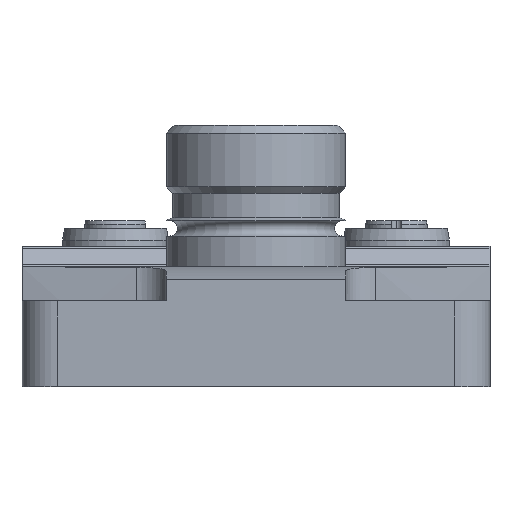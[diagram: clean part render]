
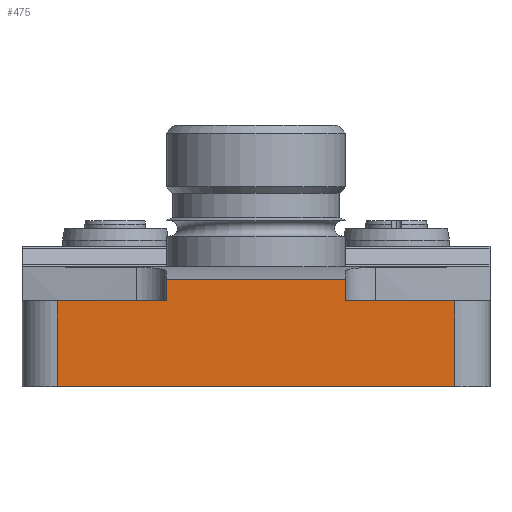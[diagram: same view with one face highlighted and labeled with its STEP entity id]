
A CAD part, front view. The second image highlights one B-rep face of the part: STEP entity #475.
In plain terms, the highlighted planar face has unit normal (0, -1, 0).
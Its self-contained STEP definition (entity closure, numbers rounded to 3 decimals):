
#475 = ADVANCED_FACE( '', ( #1530 ), #1531, .F. );
#1530 = FACE_OUTER_BOUND( '', #2829, .T. );
#1531 = PLANE( '', #2830 );
#2829 = EDGE_LOOP( '', ( #6610, #6611, #6612, #6613, #6614, #6615, #6616, #6617 ) );
#2830 = AXIS2_PLACEMENT_3D( '', #6618, #6619, #6620 );
#6610 = ORIENTED_EDGE( '', *, *, #8782, .T. );
#6611 = ORIENTED_EDGE( '', *, *, #8777, .F. );
#6612 = ORIENTED_EDGE( '', *, *, #8837, .T. );
#6613 = ORIENTED_EDGE( '', *, *, #8841, .T. );
#6614 = ORIENTED_EDGE( '', *, *, #8838, .F. );
#6615 = ORIENTED_EDGE( '', *, *, #7765, .F. );
#6616 = ORIENTED_EDGE( '', *, *, #7768, .F. );
#6617 = ORIENTED_EDGE( '', *, *, #7748, .T. );
#6618 = CARTESIAN_POINT( '', ( -25.5, 0., 8. ) );
#6619 = DIRECTION( '', ( 0., 1., 0. ) );
#6620 = DIRECTION( '', ( 0., 0., 1. ) );
#7748 = EDGE_CURVE( '', #9210, #9208, #9211, .T. );
#7765 = EDGE_CURVE( '', #9241, #9232, #9243, .T. );
#7768 = EDGE_CURVE( '', #9210, #9241, #9246, .T. );
#8777 = EDGE_CURVE( '', #10952, #10954, #10955, .T. );
#8782 = EDGE_CURVE( '', #9208, #10954, #10961, .T. );
#8837 = EDGE_CURVE( '', #10952, #11041, #11043, .T. );
#8838 = EDGE_CURVE( '', #9232, #11044, #11045, .T. );
#8841 = EDGE_CURVE( '', #11041, #11044, #11049, .T. );
#9208 = VERTEX_POINT( '', #11667 );
#9210 = VERTEX_POINT( '', #11669 );
#9211 = LINE( '', #11670, #11671 );
#9232 = VERTEX_POINT( '', #11716 );
#9241 = VERTEX_POINT( '', #11726 );
#9243 = LINE( '', #11729, #11730 );
#9246 = LINE( '', #11735, #11736 );
#10952 = VERTEX_POINT( '', #14522 );
#10954 = VERTEX_POINT( '', #14524 );
#10955 = LINE( '', #14525, #14526 );
#10961 = LINE( '', #14535, #14536 );
#11041 = VERTEX_POINT( '', #14658 );
#11043 = LINE( '', #14660, #14661 );
#11044 = VERTEX_POINT( '', #14662 );
#11045 = LINE( '', #14663, #14664 );
#11049 = LINE( '', #14669, #14670 );
#11667 = CARTESIAN_POINT( '', ( -11.5, 0., 3.76 ) );
#11669 = CARTESIAN_POINT( '', ( 11.5, 0., 3.76 ) );
#11670 = CARTESIAN_POINT( '', ( 30., 0., 3.76 ) );
#11671 = VECTOR( '', #15155, 1000. );
#11716 = CARTESIAN_POINT( '', ( 25.5, 0., 1. ) );
#11726 = CARTESIAN_POINT( '', ( 11.5, 0., 1. ) );
#11729 = CARTESIAN_POINT( '', ( 11.5, 0., 1. ) );
#11730 = VECTOR( '', #15186, 1000. );
#11735 = CARTESIAN_POINT( '', ( 11.5, 0., 15. ) );
#11736 = VECTOR( '', #15189, 1000. );
#14522 = CARTESIAN_POINT( '', ( -25.5, 0., 1. ) );
#14524 = CARTESIAN_POINT( '', ( -11.5, 0., 1. ) );
#14525 = CARTESIAN_POINT( '', ( -30., 0., 1. ) );
#14526 = VECTOR( '', #16205, 1000. );
#14535 = CARTESIAN_POINT( '', ( -11.5, 0., 15. ) );
#14536 = VECTOR( '', #16212, 1000. );
#14658 = CARTESIAN_POINT( '', ( -25.5, 0., -10. ) );
#14660 = CARTESIAN_POINT( '', ( -25.5, 0., 8. ) );
#14661 = VECTOR( '', #16291, 1000. );
#14662 = CARTESIAN_POINT( '', ( 25.5, 0., -10. ) );
#14663 = CARTESIAN_POINT( '', ( 25.5, 0., 8. ) );
#14664 = VECTOR( '', #16292, 1000. );
#14669 = CARTESIAN_POINT( '', ( -25.5, 0., -10. ) );
#14670 = VECTOR( '', #16297, 1000. );
#15155 = DIRECTION( '', ( -1., 0., 0. ) );
#15186 = DIRECTION( '', ( 1., 0., 0. ) );
#15189 = DIRECTION( '', ( 0., 0., -1. ) );
#16205 = DIRECTION( '', ( 1., 0., 0. ) );
#16212 = DIRECTION( '', ( 0., 0., -1. ) );
#16291 = DIRECTION( '', ( 0., 0., -1. ) );
#16292 = DIRECTION( '', ( 0., 0., -1. ) );
#16297 = DIRECTION( '', ( 1., 0., 0. ) );
